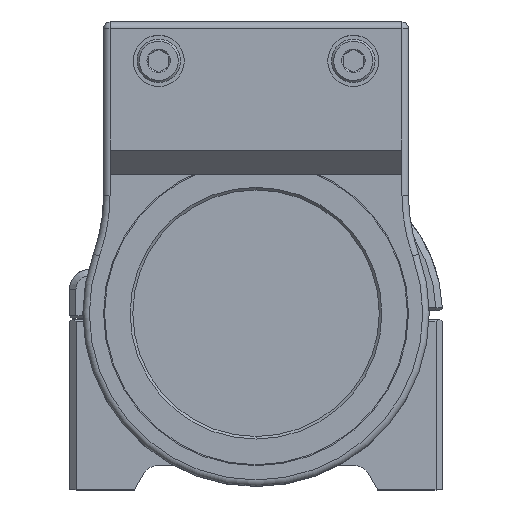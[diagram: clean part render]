
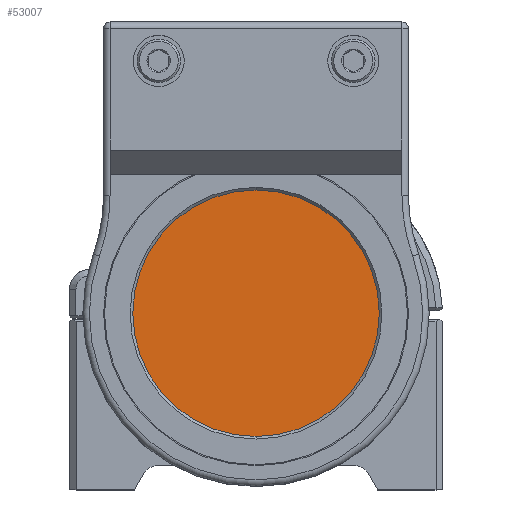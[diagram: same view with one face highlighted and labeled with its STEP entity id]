
A CAD part, top view. The second image highlights one B-rep face of the part: STEP entity #53007.
In plain terms, the highlighted planar face has unit normal (0, 0, 1).
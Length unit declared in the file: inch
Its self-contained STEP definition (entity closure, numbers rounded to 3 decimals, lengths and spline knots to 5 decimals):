
#1008 = EDGE_LOOP ( 'NONE', ( #42868, #63549 ) ) ;
#2202 = FACE_OUTER_BOUND ( 'NONE', #1008, .T. ) ;
#2961 = CARTESIAN_POINT ( 'NONE',  ( 0., 0., 0.1875 ) ) ;
#5245 = EDGE_CURVE ( 'NONE', #71259, #6906, #59946, .T. ) ;
#6906 = VERTEX_POINT ( 'NONE', #19334 ) ;
#9426 = DIRECTION ( 'NONE',  ( 0., 0., 1. ) ) ;
#10010 = DIRECTION ( 'NONE',  ( 1., 0., 0. ) ) ;
#19334 = CARTESIAN_POINT ( 'NONE',  ( 1.1675, 0., 0.1875 ) ) ;
#19539 = DIRECTION ( 'NONE',  ( 1., 0., 0. ) ) ;
#25583 = AXIS2_PLACEMENT_3D ( 'NONE', #57026, #64444, #10010 ) ;
#31646 = PLANE ( 'NONE',  #25583 ) ;
#33620 = DIRECTION ( 'NONE',  ( 0., 0., 1. ) ) ;
#34655 = AXIS2_PLACEMENT_3D ( 'NONE', #2961, #9426, #19539 ) ;
#42714 = CARTESIAN_POINT ( 'NONE',  ( -1.1675, 0., 0.1875 ) ) ;
#42868 = ORIENTED_EDGE ( 'NONE', *, *, #5245, .T. ) ;
#44792 = CARTESIAN_POINT ( 'NONE',  ( 0., 0., 0.1875 ) ) ;
#46426 = CIRCLE ( 'NONE', #55676, 1.1675 ) ;
#50897 = DIRECTION ( 'NONE',  ( 1., 0., 0. ) ) ;
#53007 = ADVANCED_FACE ( 'NONE', ( #2202 ), #31646, .T. ) ;
#54645 = EDGE_CURVE ( 'NONE', #6906, #71259, #46426, .T. ) ;
#55676 = AXIS2_PLACEMENT_3D ( 'NONE', #44792, #33620, #50897 ) ;
#57026 = CARTESIAN_POINT ( 'NONE',  ( 0., 0., 0.1875 ) ) ;
#59946 = CIRCLE ( 'NONE', #34655, 1.1675 ) ;
#63549 = ORIENTED_EDGE ( 'NONE', *, *, #54645, .T. ) ;
#64444 = DIRECTION ( 'NONE',  ( 0., 0., 1. ) ) ;
#71259 = VERTEX_POINT ( 'NONE', #42714 ) ;
